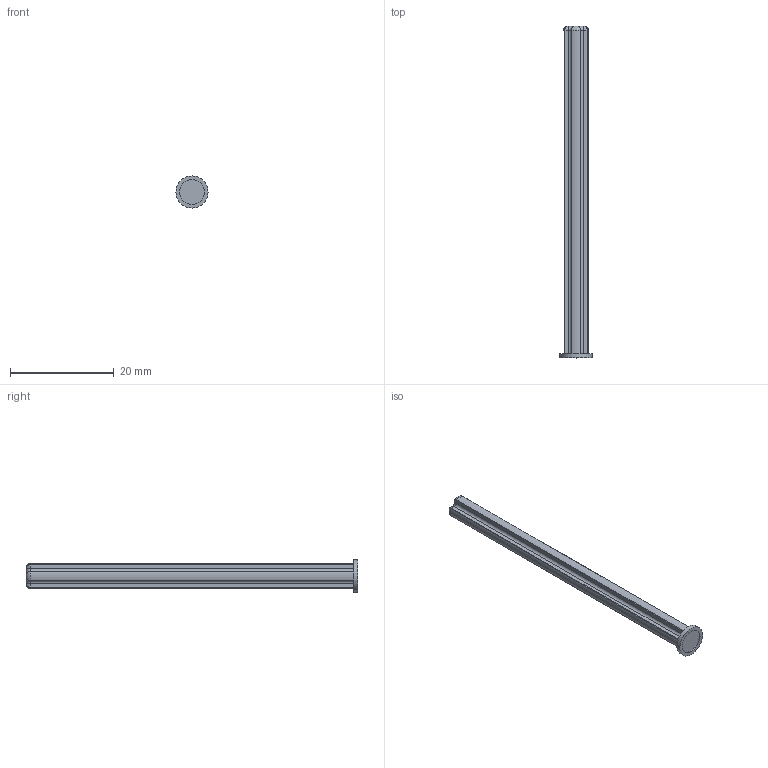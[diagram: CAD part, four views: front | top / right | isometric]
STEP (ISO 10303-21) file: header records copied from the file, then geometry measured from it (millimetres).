
FILE_DESCRIPTION(/* description */ ('Unknown'),/* implementation_level */ '2;1');
FILE_NAME(/* name */ 'Gray_4499858_JCA',/* time_stamp */ '2025-07-21T23:58:58+02:00',/* author */ ('Unknown'),/* organization */ ('Unknown'),/* preprocessor_version */ 'ST-DEVELOPER v19.4',/* originating_system */ 'Solid Edge',/* authorisation */ 'Unknown');
FILE_SCHEMA (('AUTOMOTIVE_DESIGN {1 0 10303 214 3 1 1}'));
Length unit declared in the file: millimetre
Products named in the file (1): Gray_4499858_JCA
Bounding box: 6.2 x 64 x 6.2 mm (x, y, z)
Volume: 892.6 mm3; surface area: 1146.3 mm2
Topology: 1 solids, 1 shells, 54 faces, 126 edges, 68 vertices
Faces by surface type: cylinder 26, plane 12, torus 8, bspline 8
Full cylindrical faces by diameter (mm): 4.8 x1, 6.2 x1
Entity records: 1590 total; most frequent: CARTESIAN_POINT 415, DIRECTION 246, ORIENTED_EDGE 232, EDGE_CURVE 116, AXIS2_PLACEMENT_3D 99, VERTEX_POINT 68, EDGE_LOOP 58, FACE_BOUND 58
